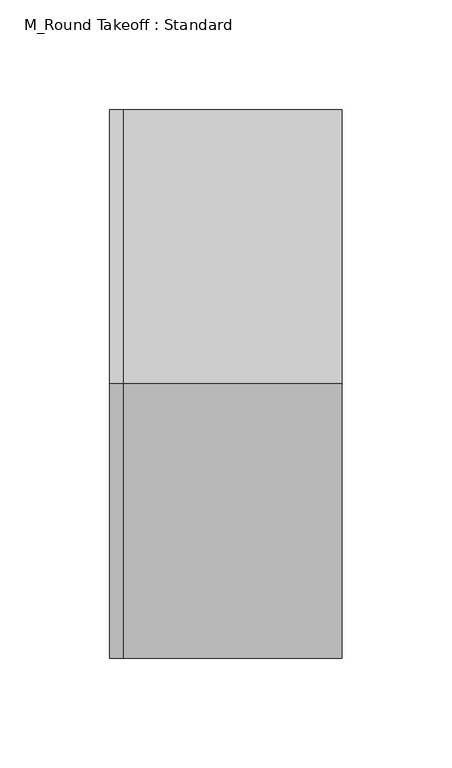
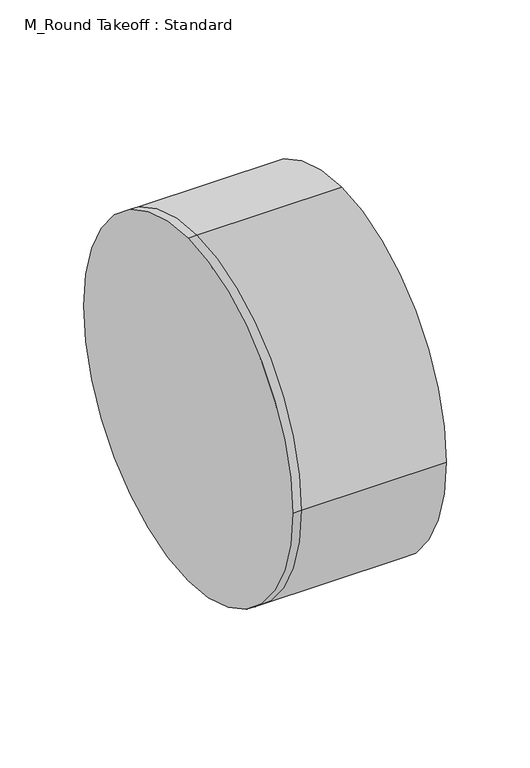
"""IFC4 building model written with IfcOpenShell, lengths in millimetres: duct fitting geometry, M_Round Takeoff : Standard."""

from ifc_helpers import new_model, si_unit, frame, origin, place, context, project, spatial, circle_curve, source, transform, mapped, element, save
from ifc_brep_helpers import plane_surface, cylinder_surface, advanced_brep


def m_round_takeoff_standard_3c6c0435(model_context):
    return source(origin(), model_context, "Body", "AdvancedBrep", [
        advanced_brep(
        [(-6.096, 0.0, 125.0), (-6.096, 125.0, 0.0), (-6.096, 0.0, -125.0), (-6.096, -125.0, 0.0), (0.0, -125.0, 0.0), (0.0, 0.0, 125.0), (0.0, 0.0, -125.0), (0.0, 125.0, 0.0), (100.0, 0.0, 125.0), (100.0, -125.0, 0.0), (100.0, 0.0, -125.0), (100.0, 125.0, 0.0)],
        [
            (0, 1, circle_curve(frame((-6.096, 0.0, 0.0), z_axis=(-1.0, 0.0, 0.0), x_axis=(0.0, -1.0, 0.0)), 125.0)),
            (1, 2, circle_curve(frame((-6.096, 0.0, 0.0), z_axis=(-1.0, 0.0, 0.0), x_axis=(0.0, -1.0, 0.0)), 125.0)),
            (2, 3, circle_curve(frame((-6.096, 0.0, 0.0), z_axis=(-1.0, 0.0, 0.0), x_axis=(0.0, -1.0, 0.0)), 125.0)),
            (3, 0, circle_curve(frame((-6.096, 0.0, 0.0), z_axis=(-1.0, 0.0, 0.0), x_axis=(0.0, -1.0, 0.0)), 125.0)),
            (3, 4),
            (4, 5, circle_curve(frame((0.0, 0.0, 0.0), z_axis=(-1.0, 0.0, 0.0), x_axis=(0.0, -1.0, 0.0)), 125.0)),
            (5, 0),
            (2, 6),
            (6, 4, circle_curve(frame((0.0, 0.0, 0.0), z_axis=(-1.0, 0.0, 0.0), x_axis=(0.0, -1.0, 0.0)), 125.0)),
            (1, 7),
            (7, 6, circle_curve(frame((0.0, 0.0, 0.0), z_axis=(-1.0, 0.0, 0.0), x_axis=(0.0, -1.0, 0.0)), 125.0)),
            (5, 7, circle_curve(frame((0.0, 0.0, 0.0), z_axis=(-1.0, 0.0, 0.0), x_axis=(0.0, -1.0, 0.0)), 125.0)),
            (8, 9, circle_curve(frame((100.0, 0.0, 0.0), z_axis=(1.0, 0.0, 0.0), x_axis=(0.0, -1.0, 0.0)), 125.0)),
            (9, 10, circle_curve(frame((100.0, 0.0, 0.0), z_axis=(1.0, 0.0, 0.0), x_axis=(0.0, -1.0, 0.0)), 125.0)),
            (10, 11, circle_curve(frame((100.0, 0.0, 0.0), z_axis=(1.0, 0.0, 0.0), x_axis=(0.0, -1.0, 0.0)), 125.0)),
            (11, 8, circle_curve(frame((100.0, 0.0, 0.0), z_axis=(1.0, 0.0, 0.0), x_axis=(0.0, -1.0, 0.0)), 125.0)),
            (8, 5),
            (4, 9),
            (6, 10),
            (7, 11),
        ],
        [
            plane_surface(frame((-6.096, 0.0, 0.0), z_axis=(-1.0, 0.0, 0.0), x_axis=(0.0, 0.0, 1.0))),
            cylinder_surface(frame((-6.096, 0.0, 0.0), z_axis=(-1.0, 0.0, 0.0), x_axis=(0.0, -1.0, 0.0)), 125.0),
            plane_surface(frame((100.0, 0.0, 0.0), z_axis=(1.0, 0.0, 0.0), x_axis=(0.0, 0.0, 1.0))),
            cylinder_surface(frame((0.0, 0.0, 0.0), z_axis=(-1.0, 0.0, 0.0), x_axis=(0.0, -1.0, 0.0)), 125.0),
        ],
        [
            (0, [[1, 2, 3, 4]]),
            (1, [[5, 6, 7, -4]]),
            (1, [[8, 9, -5, -3]]),
            (1, [[10, 11, -8, -2]]),
            (1, [[-7, 12, -10, -1]]),
            (2, [[13, 14, 15, 16]]),
            (3, [[17, -6, 18, -13]]),
            (3, [[-18, -9, 19, -14]]),
            (3, [[-19, -11, 20, -15]]),
            (3, [[-20, -12, -17, -16]]),
        ],
    ),
        advanced_brep(
        [(100.0, 0.0, 125.0), (100.0, -125.0, 0.0), (100.0, 0.0, -125.0), (100.0, 125.0, 0.0), (0.0, 0.0, 125.0), (0.0, -125.0, 0.0), (0.0, 0.0, -125.0), (0.0, 125.0, 0.0), (-6.096, 0.0, 125.0), (-6.096, 125.0, 0.0), (-6.096, 0.0, -125.0), (-6.096, -125.0, 0.0)],
        [
            (0, 1, circle_curve(frame((100.0, 0.0, 0.0), z_axis=(1.0, 0.0, 0.0), x_axis=(0.0, -1.0, 0.0)), 125.0)),
            (1, 2, circle_curve(frame((100.0, 0.0, 0.0), z_axis=(1.0, 0.0, 0.0), x_axis=(0.0, -1.0, 0.0)), 125.0)),
            (2, 3, circle_curve(frame((100.0, 0.0, 0.0), z_axis=(1.0, 0.0, 0.0), x_axis=(0.0, -1.0, 0.0)), 125.0)),
            (3, 0, circle_curve(frame((100.0, 0.0, 0.0), z_axis=(1.0, 0.0, 0.0), x_axis=(0.0, -1.0, 0.0)), 125.0)),
            (0, 4),
            (4, 5, circle_curve(frame((0.0, 0.0, 0.0), z_axis=(1.0, 0.0, 0.0), x_axis=(0.0, -1.0, 0.0)), 125.0)),
            (5, 1),
            (5, 6, circle_curve(frame((0.0, 0.0, 0.0), z_axis=(1.0, 0.0, 0.0), x_axis=(0.0, -1.0, 0.0)), 125.0)),
            (6, 2),
            (6, 7, circle_curve(frame((0.0, 0.0, 0.0), z_axis=(1.0, 0.0, 0.0), x_axis=(0.0, -1.0, 0.0)), 125.0)),
            (7, 3),
            (7, 4, circle_curve(frame((0.0, 0.0, 0.0), z_axis=(1.0, 0.0, 0.0), x_axis=(0.0, -1.0, 0.0)), 125.0)),
            (8, 9, circle_curve(frame((-6.096, 0.0, 0.0), z_axis=(-1.0, 0.0, 0.0), x_axis=(0.0, -1.0, 0.0)), 125.0)),
            (9, 10, circle_curve(frame((-6.096, 0.0, 0.0), z_axis=(-1.0, 0.0, 0.0), x_axis=(0.0, -1.0, 0.0)), 125.0)),
            (10, 11, circle_curve(frame((-6.096, 0.0, 0.0), z_axis=(-1.0, 0.0, 0.0), x_axis=(0.0, -1.0, 0.0)), 125.0)),
            (11, 8, circle_curve(frame((-6.096, 0.0, 0.0), z_axis=(-1.0, 0.0, 0.0), x_axis=(0.0, -1.0, 0.0)), 125.0)),
            (11, 5),
            (4, 8),
            (10, 6),
            (9, 7),
        ],
        [
            plane_surface(frame((100.0, 0.0, 0.0), z_axis=(1.0, 0.0, 0.0), x_axis=(0.0, 0.0, 1.0))),
            cylinder_surface(frame((0.0, 0.0, 0.0), z_axis=(-1.0, 0.0, 0.0), x_axis=(0.0, -1.0, 0.0)), 125.0),
            plane_surface(frame((-6.096, 0.0, 0.0), z_axis=(-1.0, 0.0, 0.0), x_axis=(0.0, 0.0, 1.0))),
            cylinder_surface(frame((-6.096, 0.0, 0.0), z_axis=(-1.0, 0.0, 0.0), x_axis=(0.0, -1.0, 0.0)), 125.0),
        ],
        [
            (0, [[1, 2, 3, 4]]),
            (1, [[5, 6, 7, -1]]),
            (1, [[-7, 8, 9, -2]]),
            (1, [[-9, 10, 11, -3]]),
            (1, [[-11, 12, -5, -4]]),
            (2, [[13, 14, 15, 16]]),
            (3, [[17, -6, 18, -16]]),
            (3, [[19, -8, -17, -15]]),
            (3, [[20, -10, -19, -14]]),
            (3, [[-18, -12, -20, -13]]),
        ],
    ),
        advanced_brep(
        [(-6.096, 0.0, 125.0), (-6.096, 125.0, 0.0), (-6.096, 0.0, -125.0), (-6.096, -125.0, 0.0), (0.0, -125.0, 0.0), (0.0, 0.0, 125.0), (0.0, 0.0, -125.0), (0.0, 125.0, 0.0), (100.0, 0.0, 125.0), (100.0, -125.0, 0.0), (100.0, 0.0, -125.0), (100.0, 125.0, 0.0)],
        [
            (0, 1, circle_curve(frame((-6.096, 0.0, 0.0), z_axis=(-1.0, 0.0, 0.0), x_axis=(0.0, -1.0, 0.0)), 125.0)),
            (1, 2, circle_curve(frame((-6.096, 0.0, 0.0), z_axis=(-1.0, 0.0, 0.0), x_axis=(0.0, -1.0, 0.0)), 125.0)),
            (2, 3, circle_curve(frame((-6.096, 0.0, 0.0), z_axis=(-1.0, 0.0, 0.0), x_axis=(0.0, -1.0, 0.0)), 125.0)),
            (3, 0, circle_curve(frame((-6.096, 0.0, 0.0), z_axis=(-1.0, 0.0, 0.0), x_axis=(0.0, -1.0, 0.0)), 125.0)),
            (3, 4),
            (4, 5, circle_curve(frame((0.0, 0.0, 0.0), z_axis=(-1.0, 0.0, 0.0), x_axis=(0.0, -1.0, 0.0)), 125.0)),
            (5, 0),
            (2, 6),
            (6, 4, circle_curve(frame((0.0, 0.0, 0.0), z_axis=(-1.0, 0.0, 0.0), x_axis=(0.0, -1.0, 0.0)), 125.0)),
            (1, 7),
            (7, 6, circle_curve(frame((0.0, 0.0, 0.0), z_axis=(-1.0, 0.0, 0.0), x_axis=(0.0, -1.0, 0.0)), 125.0)),
            (5, 7, circle_curve(frame((0.0, 0.0, 0.0), z_axis=(-1.0, 0.0, 0.0), x_axis=(0.0, -1.0, 0.0)), 125.0)),
            (8, 9, circle_curve(frame((100.0, 0.0, 0.0), z_axis=(1.0, 0.0, 0.0), x_axis=(0.0, -1.0, 0.0)), 125.0)),
            (9, 10, circle_curve(frame((100.0, 0.0, 0.0), z_axis=(1.0, 0.0, 0.0), x_axis=(0.0, -1.0, 0.0)), 125.0)),
            (10, 11, circle_curve(frame((100.0, 0.0, 0.0), z_axis=(1.0, 0.0, 0.0), x_axis=(0.0, -1.0, 0.0)), 125.0)),
            (11, 8, circle_curve(frame((100.0, 0.0, 0.0), z_axis=(1.0, 0.0, 0.0), x_axis=(0.0, -1.0, 0.0)), 125.0)),
            (8, 5),
            (4, 9),
            (6, 10),
            (7, 11),
        ],
        [
            plane_surface(frame((-6.096, 0.0, 0.0), z_axis=(-1.0, 0.0, 0.0), x_axis=(0.0, 0.0, 1.0))),
            cylinder_surface(frame((-6.096, 0.0, 0.0), z_axis=(-1.0, 0.0, 0.0), x_axis=(0.0, -1.0, 0.0)), 125.0),
            plane_surface(frame((100.0, 0.0, 0.0), z_axis=(1.0, 0.0, 0.0), x_axis=(0.0, 0.0, 1.0))),
            cylinder_surface(frame((0.0, 0.0, 0.0), z_axis=(-1.0, 0.0, 0.0), x_axis=(0.0, -1.0, 0.0)), 125.0),
        ],
        [
            (0, [[1, 2, 3, 4]]),
            (1, [[5, 6, 7, -4]]),
            (1, [[8, 9, -5, -3]]),
            (1, [[10, 11, -8, -2]]),
            (1, [[-7, 12, -10, -1]]),
            (2, [[13, 14, 15, 16]]),
            (3, [[17, -6, 18, -13]]),
            (3, [[-18, -9, 19, -14]]),
            (3, [[-19, -11, 20, -15]]),
            (3, [[-20, -12, -17, -16]]),
        ],
    ),
    ])


if __name__ == "__main__":
    model = new_model("IFC4")
    model_context = context("Model", 3, world=origin())
    ifc_project = project(units=[si_unit("LENGTHUNIT", "METRE", prefix="MILLI")], contexts=[model_context])
    site = spatial("IfcSite", under=ifc_project)
    building = spatial("IfcBuilding", under=site)
    placement = place(None, origin())
    m_round_takeoff_standard_shape = m_round_takeoff_standard_3c6c0435(model_context)
    element("IfcDuctFitting", 1, ObjectType="M_Round Takeoff : Standard", at=placement, inside=building, context=model_context, shape_type="MappedRepresentation", body=[
        mapped(m_round_takeoff_standard_shape, transform((0.0, 0.0, 0.0), x_axis=(1.0, 0.0, 0.0), y_axis=(0.0, 1.0, 0.0), z_axis=(0.0, 0.0, 1.0))),
    ])
    save(model, "model.ifc")
